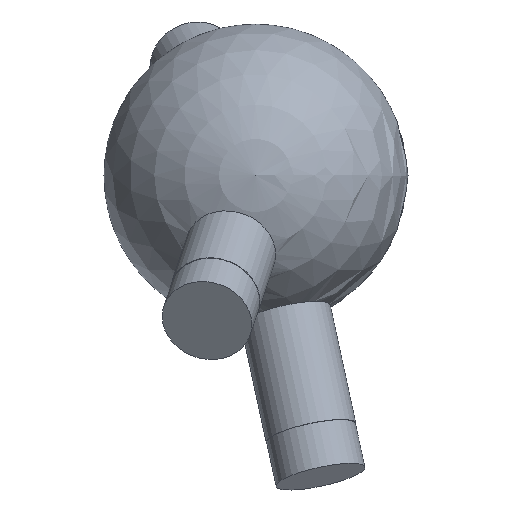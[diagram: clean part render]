
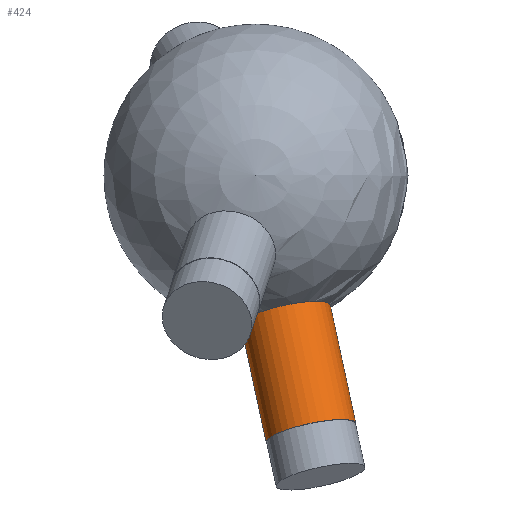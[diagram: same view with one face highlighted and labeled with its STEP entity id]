
A CAD part, top view. The second image highlights one B-rep face of the part: STEP entity #424.
In plain terms, the highlighted cylindrical face has radius 6 mm (diameter 12 mm), a full revolution.
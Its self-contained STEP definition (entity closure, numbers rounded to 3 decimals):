
#35 = SPHERICAL_SURFACE('',#36,20.);
#36 = AXIS2_PLACEMENT_3D('',#37,#38,#39);
#37 = CARTESIAN_POINT('',(0.,0.,0.));
#38 = DIRECTION('',(0.,0.,1.));
#39 = DIRECTION('',(1.,0.,-0.));
#165 = EDGE_CURVE('',#166,#166,#168,.T.);
#166 = VERTEX_POINT('',#167);
#167 = CARTESIAN_POINT('',(3.939,-19.514,
    -1.921));
#168 = SURFACE_CURVE('',#169,(#174,#243),.PCURVE_S1.);
#169 = CIRCLE('',#170,6.);
#170 = AXIS2_PLACEMENT_3D('',#171,#172,#173);
#171 = CARTESIAN_POINT('',(3.939,-18.246,3.944
    ));
#172 = DIRECTION('',(0.206,-0.956,0.207));
#173 = DIRECTION('',(0.,-0.211,-0.977
    ));
#174 = PCURVE('',#35,#175);
#175 = DEFINITIONAL_REPRESENTATION('',(#176),#242);
#176 = B_SPLINE_CURVE_WITH_KNOTS('',8,(#177,#178,#179,#180,#181,#182,
    #183,#184,#185,#186,#187,#188,#189,#190,#191,#192,#193,#194,#195,
    #196,#197,#198,#199,#200,#201,#202,#203,#204,#205,#206,#207,#208,
    #209,#210,#211,#212,#213,#214,#215,#216,#217,#218,#219,#220,#221,
    #222,#223,#224,#225,#226,#227,#228,#229,#230,#231,#232,#233,#234,
    #235,#236,#237,#238,#239,#240,#241),.UNSPECIFIED.,.T.,.F.,(9,7,7,7,7
    ,7,7,7,7,9),(0.,0.785,1.473,2.074,
    2.6,3.06,3.866,4.47,
    5.377,6.283),.UNSPECIFIED.);
#177 = CARTESIAN_POINT('',(4.912,-0.096));
#178 = CARTESIAN_POINT('',(4.941,-0.097));
#179 = CARTESIAN_POINT('',(4.971,-0.096));
#180 = CARTESIAN_POINT('',(5.,-0.09));
#181 = CARTESIAN_POINT('',(5.029,-0.082));
#182 = CARTESIAN_POINT('',(5.057,-0.07));
#183 = CARTESIAN_POINT('',(5.083,-0.056));
#184 = CARTESIAN_POINT('',(5.107,-0.039));
#185 = CARTESIAN_POINT('',(5.148,-0.002));
#186 = CARTESIAN_POINT('',(5.166,0.016));
#187 = CARTESIAN_POINT('',(5.182,0.037));
#188 = CARTESIAN_POINT('',(5.196,0.059));
#189 = CARTESIAN_POINT('',(5.208,0.082));
#190 = CARTESIAN_POINT('',(5.218,0.106));
#191 = CARTESIAN_POINT('',(5.225,0.131));
#192 = CARTESIAN_POINT('',(5.235,0.178));
#193 = CARTESIAN_POINT('',(5.238,0.201));
#194 = CARTESIAN_POINT('',(5.238,0.223));
#195 = CARTESIAN_POINT('',(5.237,0.246));
#196 = CARTESIAN_POINT('',(5.234,0.268));
#197 = CARTESIAN_POINT('',(5.229,0.291));
#198 = CARTESIAN_POINT('',(5.223,0.312));
#199 = CARTESIAN_POINT('',(5.206,0.352));
#200 = CARTESIAN_POINT('',(5.197,0.369));
#201 = CARTESIAN_POINT('',(5.186,0.386));
#202 = CARTESIAN_POINT('',(5.174,0.403));
#203 = CARTESIAN_POINT('',(5.16,0.418));
#204 = CARTESIAN_POINT('',(5.145,0.432));
#205 = CARTESIAN_POINT('',(5.129,0.446));
#206 = CARTESIAN_POINT('',(5.096,0.468));
#207 = CARTESIAN_POINT('',(5.079,0.477));
#208 = CARTESIAN_POINT('',(5.062,0.486));
#209 = CARTESIAN_POINT('',(5.044,0.493));
#210 = CARTESIAN_POINT('',(5.026,0.499));
#211 = CARTESIAN_POINT('',(5.007,0.504));
#212 = CARTESIAN_POINT('',(4.988,0.508));
#213 = CARTESIAN_POINT('',(4.934,0.514));
#214 = CARTESIAN_POINT('',(4.899,0.515));
#215 = CARTESIAN_POINT('',(4.864,0.511));
#216 = CARTESIAN_POINT('',(4.83,0.504));
#217 = CARTESIAN_POINT('',(4.797,0.493));
#218 = CARTESIAN_POINT('',(4.767,0.478));
#219 = CARTESIAN_POINT('',(4.74,0.46));
#220 = CARTESIAN_POINT('',(4.697,0.424));
#221 = CARTESIAN_POINT('',(4.68,0.407));
#222 = CARTESIAN_POINT('',(4.665,0.389));
#223 = CARTESIAN_POINT('',(4.652,0.369));
#224 = CARTESIAN_POINT('',(4.641,0.349));
#225 = CARTESIAN_POINT('',(4.632,0.328));
#226 = CARTESIAN_POINT('',(4.626,0.306));
#227 = CARTESIAN_POINT('',(4.613,0.251));
#228 = CARTESIAN_POINT('',(4.61,0.217));
#229 = CARTESIAN_POINT('',(4.611,0.182));
#230 = CARTESIAN_POINT('',(4.617,0.148));
#231 = CARTESIAN_POINT('',(4.627,0.115));
#232 = CARTESIAN_POINT('',(4.64,0.083));
#233 = CARTESIAN_POINT('',(4.658,0.054));
#234 = CARTESIAN_POINT('',(4.699,0.));
#235 = CARTESIAN_POINT('',(4.723,-0.025));
#236 = CARTESIAN_POINT('',(4.749,-0.046));
#237 = CARTESIAN_POINT('',(4.779,-0.065));
#238 = CARTESIAN_POINT('',(4.81,-0.079));
#239 = CARTESIAN_POINT('',(4.844,-0.089));
#240 = CARTESIAN_POINT('',(4.877,-0.095));
#241 = CARTESIAN_POINT('',(4.912,-0.096));
#242 = ( GEOMETRIC_REPRESENTATION_CONTEXT(2) 
PARAMETRIC_REPRESENTATION_CONTEXT() REPRESENTATION_CONTEXT('2D SPACE',''
  ) );
#243 = PCURVE('',#244,#249);
#244 = CYLINDRICAL_SURFACE('',#245,6.);
#245 = AXIS2_PLACEMENT_3D('',#246,#247,#248);
#246 = CARTESIAN_POINT('',(0.,0.,0.));
#247 = DIRECTION('',(0.206,-0.956,0.207));
#248 = DIRECTION('',(0.,-0.211,-0.977
    ));
#249 = DEFINITIONAL_REPRESENTATION('',(#250),#254);
#250 = LINE('',#251,#252);
#251 = CARTESIAN_POINT('',(0.,19.079));
#252 = VECTOR('',#253,1.);
#253 = DIRECTION('',(1.,0.));
#254 = ( GEOMETRIC_REPRESENTATION_CONTEXT(2) 
PARAMETRIC_REPRESENTATION_CONTEXT() REPRESENTATION_CONTEXT('2D SPACE',''
  ) );
#424 = ADVANCED_FACE('',(#425),#244,.T.);
#425 = FACE_BOUND('',#426,.T.);
#426 = EDGE_LOOP('',(#427,#450,#477,#478));
#427 = ORIENTED_EDGE('',*,*,#428,.T.);
#428 = EDGE_CURVE('',#166,#429,#431,.T.);
#429 = VERTEX_POINT('',#430);
#430 = CARTESIAN_POINT('',(7.282,-34.998,1.426)
  );
#431 = SEAM_CURVE('',#432,(#436,#443),.PCURVE_S1.);
#432 = LINE('',#433,#434);
#433 = CARTESIAN_POINT('',(0.,-1.268,
    -5.865));
#434 = VECTOR('',#435,1.);
#435 = DIRECTION('',(0.206,-0.956,0.207));
#436 = PCURVE('',#244,#437);
#437 = DEFINITIONAL_REPRESENTATION('',(#438),#442);
#438 = LINE('',#439,#440);
#439 = CARTESIAN_POINT('',(6.283,-0.));
#440 = VECTOR('',#441,1.);
#441 = DIRECTION('',(0.,1.));
#442 = ( GEOMETRIC_REPRESENTATION_CONTEXT(2) 
PARAMETRIC_REPRESENTATION_CONTEXT() REPRESENTATION_CONTEXT('2D SPACE',''
  ) );
#443 = PCURVE('',#244,#444);
#444 = DEFINITIONAL_REPRESENTATION('',(#445),#449);
#445 = LINE('',#446,#447);
#446 = CARTESIAN_POINT('',(0.,-0.));
#447 = VECTOR('',#448,1.);
#448 = DIRECTION('',(0.,1.));
#449 = ( GEOMETRIC_REPRESENTATION_CONTEXT(2) 
PARAMETRIC_REPRESENTATION_CONTEXT() REPRESENTATION_CONTEXT('2D SPACE',''
  ) );
#450 = ORIENTED_EDGE('',*,*,#451,.F.);
#451 = EDGE_CURVE('',#429,#429,#452,.T.);
#452 = SURFACE_CURVE('',#453,(#458,#465),.PCURVE_S1.);
#453 = CIRCLE('',#454,6.);
#454 = AXIS2_PLACEMENT_3D('',#455,#456,#457);
#455 = CARTESIAN_POINT('',(7.282,-33.73,7.29)
  );
#456 = DIRECTION('',(0.206,-0.956,0.207));
#457 = DIRECTION('',(0.,-0.211,-0.977
    ));
#458 = PCURVE('',#244,#459);
#459 = DEFINITIONAL_REPRESENTATION('',(#460),#464);
#460 = LINE('',#461,#462);
#461 = CARTESIAN_POINT('',(0.,35.269));
#462 = VECTOR('',#463,1.);
#463 = DIRECTION('',(1.,0.));
#464 = ( GEOMETRIC_REPRESENTATION_CONTEXT(2) 
PARAMETRIC_REPRESENTATION_CONTEXT() REPRESENTATION_CONTEXT('2D SPACE',''
  ) );
#465 = PCURVE('',#466,#471);
#466 = PLANE('',#467);
#467 = AXIS2_PLACEMENT_3D('',#468,#469,#470);
#468 = CARTESIAN_POINT('',(7.282,-33.73,7.29)
  );
#469 = DIRECTION('',(0.206,-0.956,0.207));
#470 = DIRECTION('',(0.,-0.211,-0.977
    ));
#471 = DEFINITIONAL_REPRESENTATION('',(#472),#476);
#472 = CIRCLE('',#473,6.);
#473 = AXIS2_PLACEMENT_2D('',#474,#475);
#474 = CARTESIAN_POINT('',(0.,0.));
#475 = DIRECTION('',(1.,0.));
#476 = ( GEOMETRIC_REPRESENTATION_CONTEXT(2) 
PARAMETRIC_REPRESENTATION_CONTEXT() REPRESENTATION_CONTEXT('2D SPACE',''
  ) );
#477 = ORIENTED_EDGE('',*,*,#428,.F.);
#478 = ORIENTED_EDGE('',*,*,#165,.T.);
